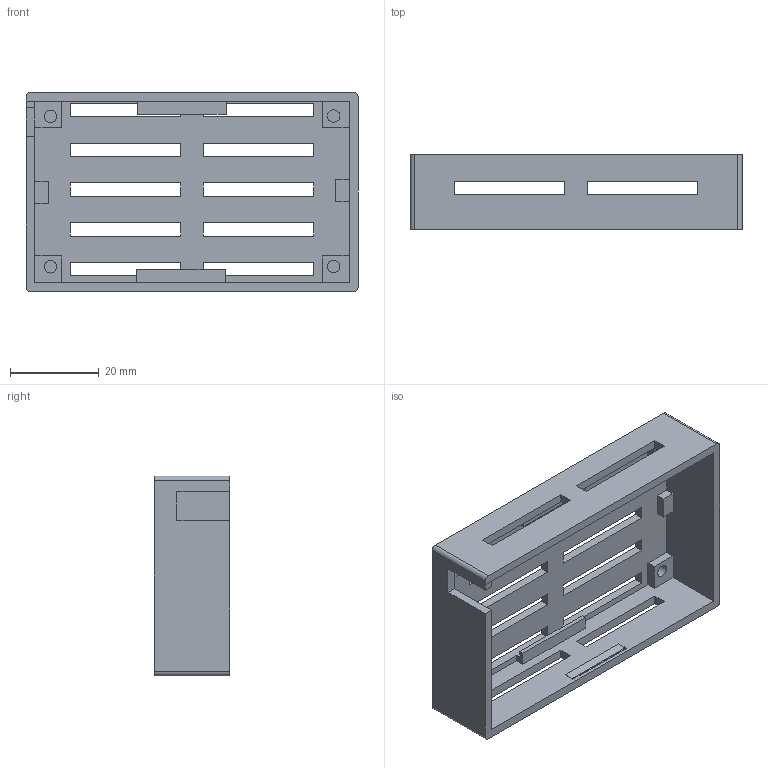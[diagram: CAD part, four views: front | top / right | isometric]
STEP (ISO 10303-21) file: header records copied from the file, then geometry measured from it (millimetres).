
FILE_DESCRIPTION(/* description */ (''),/* implementation_level */ '2;1');
FILE_NAME(/* name */ 'D:/Down/Druck/Tisch/PWM-KorpusV19.step',/* time_stamp */ '2022-02-09T16:44:28+07:00',/* author */ (''),/* organization */ (''),/* preprocessor_version */ 'ST-DEVELOPER v18.1',/* originating_system */ 'Autodesk Translation Framework v10.13.0.1454',/* authorisation */ '');
FILE_SCHEMA (('AUTOMOTIVE_DESIGN { 1 0 10303 214 3 1 1 }'));
Length unit declared in the file: millimetre
Products named in the file (1): Korpus
Bounding box: 75 x 17 x 45.1 mm (x, y, z)
Volume: 11960.2 mm3; surface area: 13882.6 mm2
Topology: 1 solids, 1 shells, 126 faces, 365 edges, 243 vertices
Faces by surface type: plane 116, cylinder 10
Full cylindrical faces by diameter (mm): 2.8 x4
Entity records: 4177 total; most frequent: CARTESIAN_POINT 735, ORIENTED_EDGE 730, DIRECTION 639, EDGE_CURVE 365, LINE 345, VECTOR 345, VERTEX_POINT 243, EDGE_LOOP 156
